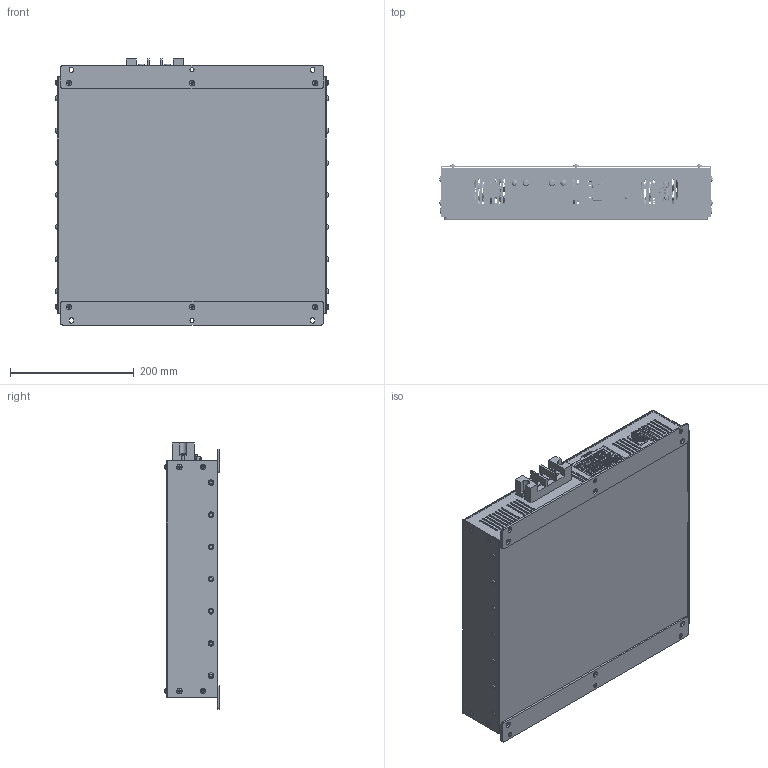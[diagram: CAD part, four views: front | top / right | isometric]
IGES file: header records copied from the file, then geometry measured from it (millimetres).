
Global section: file name: W3COM; native system: Autodesk Inventor 2021; preprocessor: unknown; author: EunSol Jang; organization: TABOS; date: 20211210.165606; units: millimetre
Bounding box: 441.84 x 88.32 x 430 mm (x, y, z)
Volume: 857962.1 mm3; surface area: 1110995.6 mm2
Topology: 5 solids, 5 shells, 5545 faces, 15137 edges, 9988 vertices
Faces by surface type: bspline 5545
